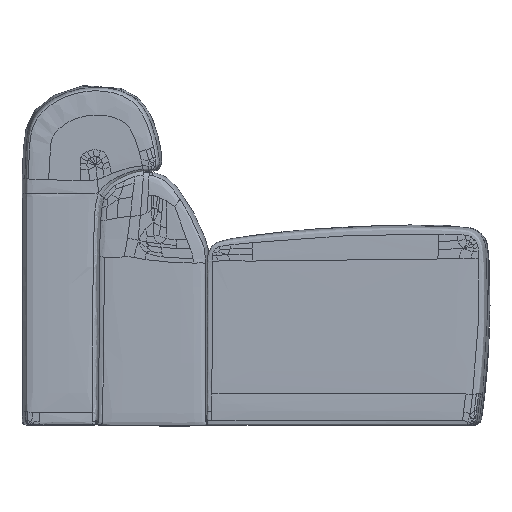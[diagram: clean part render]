
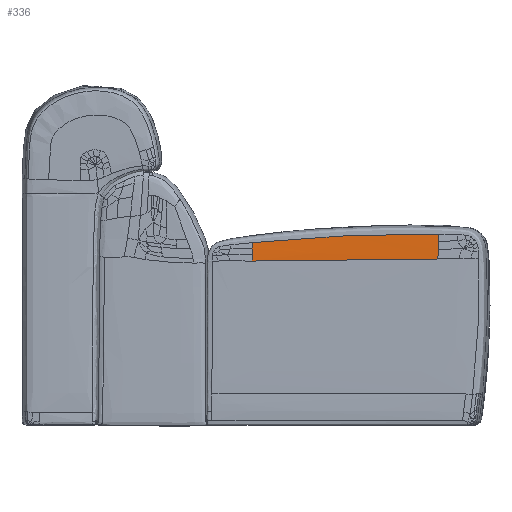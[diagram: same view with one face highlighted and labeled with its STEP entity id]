
A CAD part, left-side view. The second image highlights one B-rep face of the part: STEP entity #336.
In plain terms, the highlighted free-form (B-spline) face has degree [3, 3] with [9, 6] control points.
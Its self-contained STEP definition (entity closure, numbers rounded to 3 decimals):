
#336=ADVANCED_FACE('',(#936),#9075,.T.);
#936=FACE_OUTER_BOUND('',#1536,.T.);
#1536=EDGE_LOOP('',(#3363,#3364,#3365,#3366,#3367,#3368,#3369,#3370));
#3363=ORIENTED_EDGE('',*,*,#5631,.T.);
#3364=ORIENTED_EDGE('',*,*,#5334,.F.);
#3365=ORIENTED_EDGE('',*,*,#5634,.F.);
#3366=ORIENTED_EDGE('',*,*,#5635,.F.);
#3367=ORIENTED_EDGE('',*,*,#5632,.T.);
#3368=ORIENTED_EDGE('',*,*,#5633,.F.);
#3369=ORIENTED_EDGE('',*,*,#5636,.F.);
#3370=ORIENTED_EDGE('',*,*,#5289,.F.);
#5289=EDGE_CURVE('',#8229,#7960,#6784,.T.);
#5334=EDGE_CURVE('',#8236,#8240,#6829,.T.);
#5631=EDGE_CURVE('',#8229,#8240,#7126,.T.);
#5632=EDGE_CURVE('',#8113,#8226,#7127,.T.);
#5633=EDGE_CURVE('',#7961,#8226,#7128,.T.);
#5634=EDGE_CURVE('',#8114,#8236,#7129,.T.);
#5635=EDGE_CURVE('',#8113,#8114,#7130,.T.);
#5636=EDGE_CURVE('',#7960,#7961,#7131,.T.);
#6784=B_SPLINE_CURVE_WITH_KNOTS('',3,(#34831,#34832,#34833,#34834),
 .UNSPECIFIED.,.F.,.F.,(4,4),(0.,1.),.UNSPECIFIED.);
#6829=B_SPLINE_CURVE_WITH_KNOTS('',3,(#35106,#35107,#35108,#35109),
 .UNSPECIFIED.,.F.,.F.,(4,4),(-1.,0.),.UNSPECIFIED.);
#7126=B_SPLINE_CURVE_WITH_KNOTS('',3,(#36769,#36770,#36771,#36772,#36773,
#36774,#36775,#36776,#36777),.UNSPECIFIED.,.F.,.F.,(4,1,1,1,1,1,4),(0.,
1.,2.,3.,4.,5.,6.),.UNSPECIFIED.);
#7127=B_SPLINE_CURVE_WITH_KNOTS('',3,(#36778,#36779,#36780,#36781,#36782,
#36783,#36784,#36785,#36786),.UNSPECIFIED.,.F.,.F.,(4,1,1,1,1,1,4),(-6.,
-5.,-4.,-3.,-2.,-1.,0.),.UNSPECIFIED.);
#7128=B_SPLINE_CURVE_WITH_KNOTS('',3,(#36787,#36788,#36789,#36790),
 .UNSPECIFIED.,.F.,.F.,(4,4),(2.,3.),.UNSPECIFIED.);
#7129=B_SPLINE_CURVE_WITH_KNOTS('',3,(#36791,#36792,#36793,#36794),
 .UNSPECIFIED.,.F.,.F.,(4,4),(-2.,-1.),
 .UNSPECIFIED.);
#7130=B_SPLINE_CURVE_WITH_KNOTS('',3,(#36795,#36796,#36797,#36798),
 .UNSPECIFIED.,.F.,.F.,(4,4),(-3.,-2.),.UNSPECIFIED.);
#7131=B_SPLINE_CURVE_WITH_KNOTS('',3,(#36799,#36800,#36801,#36802),
 .UNSPECIFIED.,.F.,.F.,(4,4),(1.,2.),
 .UNSPECIFIED.);
#7960=VERTEX_POINT('',#31520);
#7961=VERTEX_POINT('',#31521);
#8113=VERTEX_POINT('',#31673);
#8114=VERTEX_POINT('',#31674);
#8226=VERTEX_POINT('',#31786);
#8229=VERTEX_POINT('',#31789);
#8236=VERTEX_POINT('',#31796);
#8240=VERTEX_POINT('',#31800);
#9075=B_SPLINE_SURFACE_WITH_KNOTS('',3,3,((#31070,#31071,#31072,#31073,
#31074,#31075),(#31076,#31077,#31078,#31079,#31080,#31081),(#31082,#31083,
#31084,#31085,#31086,#31087),(#31088,#31089,#31090,#31091,#31092,#31093),
(#31094,#31095,#31096,#31097,#31098,#31099),(#31100,#31101,#31102,#31103,
#31104,#31105),(#31106,#31107,#31108,#31109,#31110,#31111),(#31112,#31113,
#31114,#31115,#31116,#31117),(#31118,#31119,#31120,#31121,#31122,#31123)),
 .UNSPECIFIED.,.F.,.F.,.F.,(4,1,1,1,1,1,4),(4,1,1,4),(0.,1.,2.,3.,4.,5.,
6.),(0.,1.,2.,3.),.UNSPECIFIED.);
#31070=CARTESIAN_POINT('',(-2372.866,-1793.535,402.478));
#31071=CARTESIAN_POINT('',(-2373.008,-1793.35,398.529));
#31072=CARTESIAN_POINT('',(-2373.267,-1792.86,388.029));
#31073=CARTESIAN_POINT('',(-2373.534,-1793.927,369.314));
#31074=CARTESIAN_POINT('',(-2373.587,-1792.071,357.829));
#31075=CARTESIAN_POINT('',(-2373.6,-1791.388,350.61));
#31076=CARTESIAN_POINT('',(-2372.864,-1777.143,402.815));
#31077=CARTESIAN_POINT('',(-2373.007,-1776.966,398.733));
#31078=CARTESIAN_POINT('',(-2373.269,-1776.495,387.824));
#31079=CARTESIAN_POINT('',(-2373.538,-1775.472,368.578));
#31080=CARTESIAN_POINT('',(-2373.598,-1774.608,357.391));
#31081=CARTESIAN_POINT('',(-2373.613,-1774.162,350.283));
#31082=CARTESIAN_POINT('',(-2372.857,-1738.776,403.404));
#31083=CARTESIAN_POINT('',(-2372.999,-1738.594,399.149));
#31084=CARTESIAN_POINT('',(-2373.263,-1738.103,387.691));
#31085=CARTESIAN_POINT('',(-2373.537,-1737.063,367.752));
#31086=CARTESIAN_POINT('',(-2373.597,-1736.22,356.69));
#31087=CARTESIAN_POINT('',(-2373.613,-1735.777,349.69));
#31088=CARTESIAN_POINT('',(-2372.851,-1671.985,402.64));
#31089=CARTESIAN_POINT('',(-2372.993,-1671.82,398.308));
#31090=CARTESIAN_POINT('',(-2373.259,-1671.376,386.548));
#31091=CARTESIAN_POINT('',(-2373.536,-1670.449,366.329));
#31092=CARTESIAN_POINT('',(-2373.597,-1669.719,355.602));
#31093=CARTESIAN_POINT('',(-2373.613,-1669.333,348.799));
#31094=CARTESIAN_POINT('',(-2372.736,-1601.152,400.225));
#31095=CARTESIAN_POINT('',(-2372.88,-1601.021,395.979));
#31096=CARTESIAN_POINT('',(-2373.148,-1600.665,384.413));
#31097=CARTESIAN_POINT('',(-2373.43,-1599.928,364.659));
#31098=CARTESIAN_POINT('',(-2373.497,-1599.351,354.43));
#31099=CARTESIAN_POINT('',(-2373.515,-1599.045,347.861));
#31100=CARTESIAN_POINT('',(-2372.399,-1531.479,396.154));
#31101=CARTESIAN_POINT('',(-2372.546,-1531.383,392.138));
#31102=CARTESIAN_POINT('',(-2372.82,-1531.129,381.235));
#31103=CARTESIAN_POINT('',(-2373.114,-1530.596,362.68));
#31104=CARTESIAN_POINT('',(-2373.195,-1530.168,353.123));
#31105=CARTESIAN_POINT('',(-2373.222,-1529.939,346.837));
#31106=CARTESIAN_POINT('',(-2372.066,-1463.735,390.926));
#31107=CARTESIAN_POINT('',(-2372.215,-1463.704,387.305));
#31108=CARTESIAN_POINT('',(-2372.491,-1463.603,377.554));
#31109=CARTESIAN_POINT('',(-2372.792,-1463.346,360.914));
#31110=CARTESIAN_POINT('',(-2372.883,-1463.115,352.15));
#31111=CARTESIAN_POINT('',(-2372.916,-1462.98,346.16));
#31112=CARTESIAN_POINT('',(-2371.997,-1420.372,387.));
#31113=CARTESIAN_POINT('',(-2372.145,-1420.419,383.765));
#31114=CARTESIAN_POINT('',(-2372.417,-1420.483,375.126));
#31115=CARTESIAN_POINT('',(-2372.707,-1420.499,360.224));
#31116=CARTESIAN_POINT('',(-2372.796,-1420.462,352.035));
#31117=CARTESIAN_POINT('',(-2372.827,-1420.414,346.228));
#31118=CARTESIAN_POINT('',(-2371.981,-1401.288,385.146));
#31119=CARTESIAN_POINT('',(-2372.128,-1401.394,382.127));
#31120=CARTESIAN_POINT('',(-2372.394,-1401.588,374.113));
#31121=CARTESIAN_POINT('',(-2372.673,-1400.548,360.073));
#31122=CARTESIAN_POINT('',(-2372.756,-1401.21,352.066));
#31123=CARTESIAN_POINT('',(-2372.786,-1401.353,346.319));
#31520=CARTESIAN_POINT('',(-2373.246,-1793.16,387.535));
#31521=CARTESIAN_POINT('',(-2373.503,-1793.285,369.562));
#31673=CARTESIAN_POINT('',(-2372.786,-1401.353,346.319));
#31674=CARTESIAN_POINT('',(-2372.647,-1400.887,360.411));
#31786=CARTESIAN_POINT('',(-2373.6,-1791.388,350.61));
#31789=CARTESIAN_POINT('',(-2372.866,-1793.535,402.478));
#31796=CARTESIAN_POINT('',(-2372.374,-1401.366,373.776));
#31800=CARTESIAN_POINT('',(-2371.981,-1401.288,385.146));
#34831=CARTESIAN_POINT('',(-2372.866,-1793.535,402.478));
#34832=CARTESIAN_POINT('',(-2373.008,-1793.35,398.529));
#34833=CARTESIAN_POINT('',(-2373.137,-1793.105,393.279));
#34834=CARTESIAN_POINT('',(-2373.246,-1793.16,387.535));
#35106=CARTESIAN_POINT('',(-2372.374,-1401.366,373.776));
#35107=CARTESIAN_POINT('',(-2372.261,-1401.491,378.12));
#35108=CARTESIAN_POINT('',(-2372.128,-1401.394,382.127));
#35109=CARTESIAN_POINT('',(-2371.981,-1401.288,385.146));
#36769=CARTESIAN_POINT('',(-2372.866,-1793.535,402.478));
#36770=CARTESIAN_POINT('',(-2372.864,-1777.143,402.815));
#36771=CARTESIAN_POINT('',(-2372.857,-1738.776,403.404));
#36772=CARTESIAN_POINT('',(-2372.851,-1671.985,402.64));
#36773=CARTESIAN_POINT('',(-2372.736,-1601.152,400.225));
#36774=CARTESIAN_POINT('',(-2372.399,-1531.479,396.154));
#36775=CARTESIAN_POINT('',(-2372.066,-1463.735,390.926));
#36776=CARTESIAN_POINT('',(-2371.997,-1420.372,387.));
#36777=CARTESIAN_POINT('',(-2371.981,-1401.288,385.146));
#36778=CARTESIAN_POINT('',(-2372.786,-1401.353,346.319));
#36779=CARTESIAN_POINT('',(-2372.827,-1420.414,346.228));
#36780=CARTESIAN_POINT('',(-2372.916,-1462.98,346.16));
#36781=CARTESIAN_POINT('',(-2373.222,-1529.939,346.837));
#36782=CARTESIAN_POINT('',(-2373.515,-1599.045,347.861));
#36783=CARTESIAN_POINT('',(-2373.613,-1669.333,348.799));
#36784=CARTESIAN_POINT('',(-2373.613,-1735.777,349.69));
#36785=CARTESIAN_POINT('',(-2373.613,-1774.162,350.283));
#36786=CARTESIAN_POINT('',(-2373.6,-1791.388,350.61));
#36787=CARTESIAN_POINT('',(-2373.503,-1793.285,369.562));
#36788=CARTESIAN_POINT('',(-2373.561,-1792.999,363.571));
#36789=CARTESIAN_POINT('',(-2373.587,-1792.071,357.829));
#36790=CARTESIAN_POINT('',(-2373.6,-1791.388,350.61));
#36791=CARTESIAN_POINT('',(-2372.647,-1400.887,360.411));
#36792=CARTESIAN_POINT('',(-2372.58,-1400.894,364.753));
#36793=CARTESIAN_POINT('',(-2372.487,-1401.241,369.433));
#36794=CARTESIAN_POINT('',(-2372.374,-1401.366,373.776));
#36795=CARTESIAN_POINT('',(-2372.786,-1401.353,346.319));
#36796=CARTESIAN_POINT('',(-2372.756,-1401.21,352.066));
#36797=CARTESIAN_POINT('',(-2372.715,-1400.879,356.069));
#36798=CARTESIAN_POINT('',(-2372.647,-1400.887,360.411));
#36799=CARTESIAN_POINT('',(-2373.246,-1793.16,387.535));
#36800=CARTESIAN_POINT('',(-2373.356,-1793.216,381.79));
#36801=CARTESIAN_POINT('',(-2373.445,-1793.571,375.552));
#36802=CARTESIAN_POINT('',(-2373.503,-1793.285,369.562));
